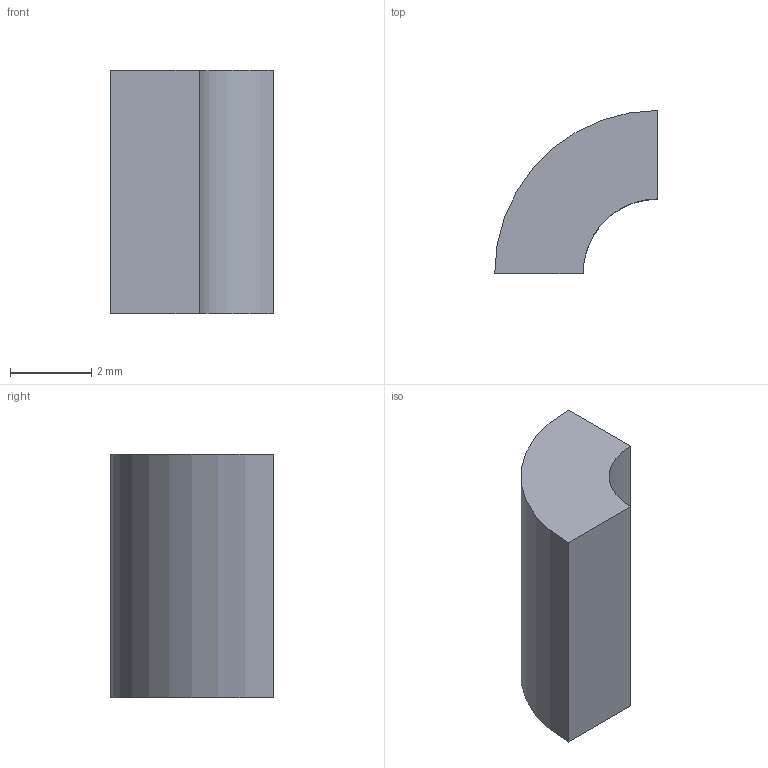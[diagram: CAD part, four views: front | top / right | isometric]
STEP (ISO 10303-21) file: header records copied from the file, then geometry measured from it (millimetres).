
FILE_DESCRIPTION(('STEP AP242 Edition 2','STEP AP242 Edition 2''CAx-IF Rec.Pracs.---Representation and Presentation of Product Manufacturing Information (PMI)---4.0---2014-10-13','STEP AP242 Edition 2''CAx-IF Rec.Pracs.---Representation and Presentation of Product Manufacturing Information (PMI)---4.0---2014-10-13''CAx-IF Rec.Pracs.---3D Tessellated Geometry---0.4---2014-09-14','STEP AP242 Edition 2''CAx-IF Rec.Pracs.---Representation and Presentation of Product Manufacturing Information (PMI)---4.0---2014-10-13''CAx-IF Rec.Pracs.---3D Tessellated Geometry---0.4---2014-09-14''2;1','STEP AP242 Edition 2''CAx-IF Rec.Pracs.---Representation and Presentation of Product Manufacturing Information (PMI)---4.0---2014-10-13''CAx-IF Rec.Pracs.---3D Tessellated Geometry---0.4---2014-09-14''2;1''CAx-IF Rec.Pracs.---User Defined Attributes---1.5---2016-08-15'),'2;1');
FILE_NAME('/vol/tmp/translate-14958899252267850940/3D_PCB_PCB_ESP32-sd-int_2026-03-29nosilk - Part 8.step','2026-03-31T16:57:28',(''),(''),'ST-DEVELOPER v20','ONSHAPE BY PTC INC, 1.212',' ');
FILE_SCHEMA(('AP242_MANAGED_MODEL_BASED_3D_ENGINEERING_MIM_LF { 1 0 10303 442 3 1 4 }'));
Length unit declared in the file: metre
Products named in the file (1): Part 8
Bounding box: 4 x 4 x 6 mm (x, y, z)
Volume: 59.7 mm3; surface area: 100.9 mm2
Topology: 1 solids, 1 shells, 6 faces, 12 edges, 8 vertices
Faces by surface type: plane 4, cylinder 2
Entity records: 226 total; most frequent: DIRECTION 36, CARTESIAN_POINT 30, ORIENTED_EDGE 24, AXIS2_PLACEMENT_3D 14, EDGE_CURVE 12, VERTEX_POINT 8, LINE 8, VECTOR 8
